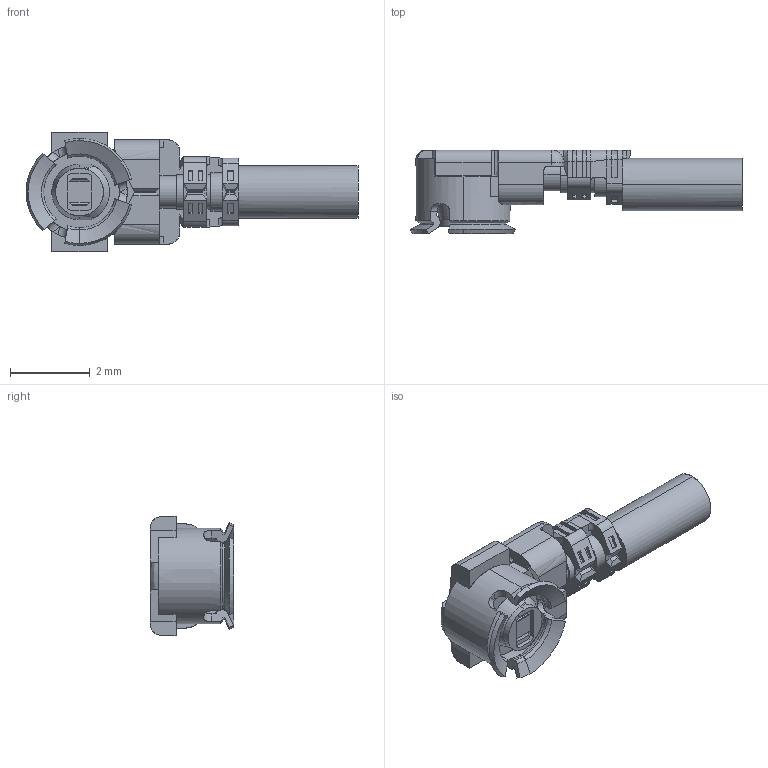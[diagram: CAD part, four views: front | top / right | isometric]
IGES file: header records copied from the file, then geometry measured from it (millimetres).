
Start section: SolidWorks IGES file using analytic representation for surfaces
Global section: file name: C:\3dwork\imaji\00.Web model check\00. New 3D\MHF I\20278-1xxR-32C PLUG  R15 IGES ALL.IGS; native system: SolidWorks 2017; preprocessor: SolidWorks 2017; author: ipxcad-013; date: 180703.174244; units: millimetre
Bounding box: 8.35 x 2.1 x 3 mm (x, y, z)
Surface area: 74.5 mm2 (no closed solid volume)
Topology: 0 solids, 0 shells, 382 faces, 2822 edges, 2815 vertices
Faces by surface type: bspline 273, revolution 109
